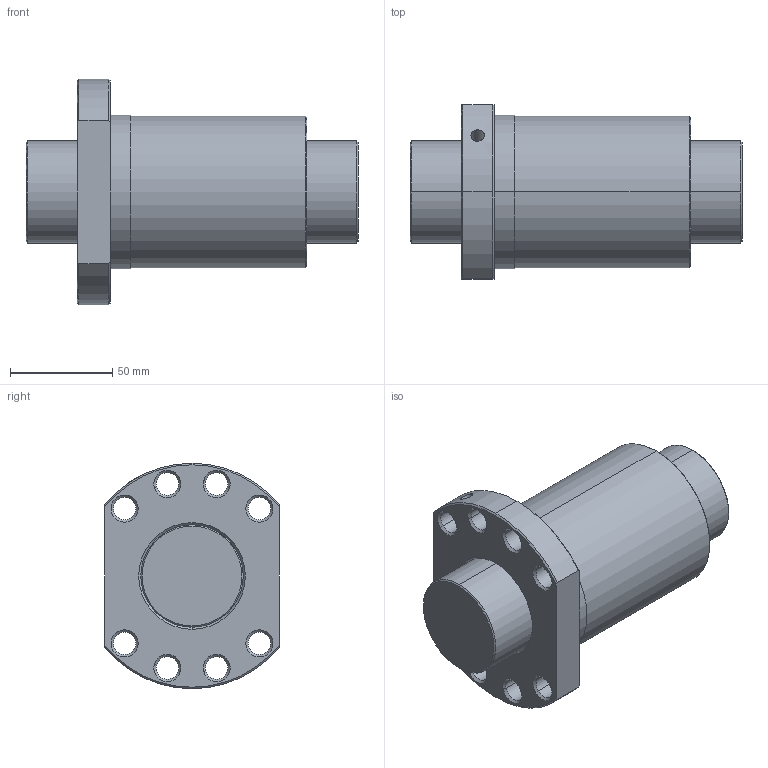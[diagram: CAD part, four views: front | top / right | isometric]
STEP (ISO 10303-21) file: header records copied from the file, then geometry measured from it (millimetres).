
FILE_DESCRIPTION(('no description'),'unknown implementation level');
FILE_NAME('R50_05T5_DDB_162_162_0_023_62.stp',' ',('HIWIN GmbH'),('CADClick - KiM GmbH - www.kimweb.de'),'unknown preprocess','ACIS','unknown authorization');
FILE_SCHEMA(('CONFIG_CONTROL_DESIGN'));
Length unit declared in the file: millimetre
Products named in the file (2): 1; 2
Bounding box: 162 x 85 x 110 mm (x, y, z)
Volume: 631681.4 mm3; surface area: 89714.3 mm2
Topology: 2 solids, 2 shells, 90 faces, 204 edges, 119 vertices
Faces by surface type: cone 52, cylinder 30, plane 8
Entity records: 2677 total; most frequent: CARTESIAN_POINT 496, DIRECTION 484, ORIENTED_EDGE 404, EDGE_CURVE 202, AXIS2_PLACEMENT_3D 200, VERTEX_POINT 119, EDGE_LOOP 111, CIRCLE 108
